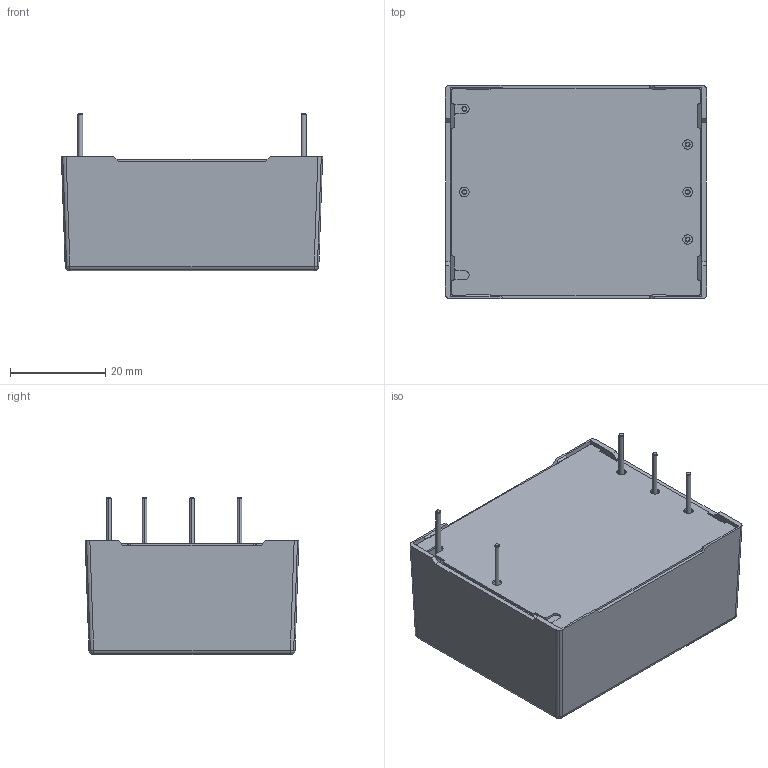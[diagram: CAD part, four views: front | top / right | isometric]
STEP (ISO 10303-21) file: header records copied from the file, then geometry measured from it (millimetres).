
FILE_DESCRIPTION((''),'2;1');
FILE_NAME('C:\Users\yaginuma\Documents\TRACO　STEPデータ送付関係\TMT152xx(ピン_デュアル）\TMT152xx pin dual Ass　stp\TMT152ｘｘ (ピン、デュアル） Ass.stp','2012-06-07T17:01:49',('yaginuma'),(''),'Autodesk Inventor 9','Autodesk Inventor 9','');
FILE_SCHEMA(('AUTOMOTIVE_DESIGN { 1 0 10303 214 1 1 1 1 }'));
Length unit declared in the file: millimetre
Products named in the file (4): TMT152ｘｘ (ピン、デュアル） Ass; 上ケース; 下ケース絶縁板; ピン
Assembly tree (7 placements, depth 2):
  TMT152ｘｘ (ピン、デュアル） Ass
    上ケース
    下ケース絶縁板
    ピン  x5
Bounding box: 55 x 45 x 33.1 mm (x, y, z)
Volume: 7400.4 mm3; surface area: 18333.4 mm2
Topology: 7 solids, 7 shells, 305 faces, 804 edges, 508 vertices
Faces by surface type: cylinder 141, plane 136, cone 20, bspline 4, sphere 4
Entity records: 8837 total; most frequent: CARTESIAN_POINT 1604, DIRECTION 1546, ORIENTED_EDGE 1480, EDGE_CURVE 740, AXIS2_PLACEMENT_3D 526, VECTOR 494, LINE 494, VERTEX_POINT 476
